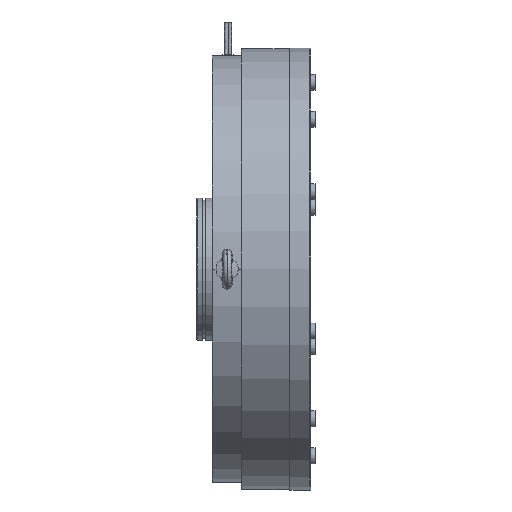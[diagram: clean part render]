
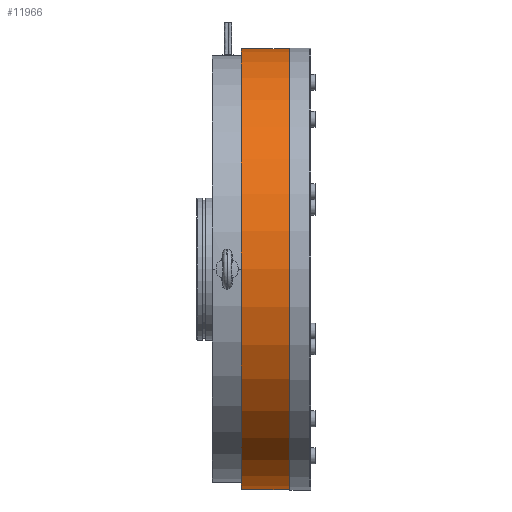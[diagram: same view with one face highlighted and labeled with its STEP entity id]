
A CAD part, front view. The second image highlights one B-rep face of the part: STEP entity #11966.
In plain terms, the highlighted cylindrical face has radius 248 mm (diameter 496 mm), a full revolution.
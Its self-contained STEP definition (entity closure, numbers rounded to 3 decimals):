
#617=LINE('',#20420,#1180);
#1180=VECTOR('',#16762,248.);
#1627=CYLINDRICAL_SURFACE('',#13438,248.);
#2355=FACE_OUTER_BOUND('',#3166,.T.);
#3166=EDGE_LOOP('',(#9843,#9844,#9845,#9846,#9847,#9848));
#4194=CIRCLE('',#13400,248.);
#4195=CIRCLE('',#13401,248.);
#4222=CIRCLE('',#13436,248.);
#4223=CIRCLE('',#13437,248.);
#5285=VERTEX_POINT('',#20347);
#5286=VERTEX_POINT('',#20348);
#5313=VERTEX_POINT('',#20415);
#5314=VERTEX_POINT('',#20416);
#6858=EDGE_CURVE('',#5285,#5286,#4194,.T.);
#6859=EDGE_CURVE('',#5286,#5285,#4195,.T.);
#6890=EDGE_CURVE('',#5313,#5314,#4222,.T.);
#6891=EDGE_CURVE('',#5314,#5313,#4223,.T.);
#6892=EDGE_CURVE('',#5286,#5314,#617,.T.);
#9843=ORIENTED_EDGE('',*,*,#6858,.F.);
#9844=ORIENTED_EDGE('',*,*,#6859,.F.);
#9845=ORIENTED_EDGE('',*,*,#6892,.T.);
#9846=ORIENTED_EDGE('',*,*,#6891,.T.);
#9847=ORIENTED_EDGE('',*,*,#6890,.T.);
#9848=ORIENTED_EDGE('',*,*,#6892,.F.);
#11966=ADVANCED_FACE('',(#2355),#1627,.T.);
#13400=AXIS2_PLACEMENT_3D('',#20349,#16680,#16681);
#13401=AXIS2_PLACEMENT_3D('',#20350,#16682,#16683);
#13436=AXIS2_PLACEMENT_3D('',#20417,#16756,#16757);
#13437=AXIS2_PLACEMENT_3D('',#20418,#16758,#16759);
#13438=AXIS2_PLACEMENT_3D('',#20419,#16760,#16761);
#16680=DIRECTION('center_axis',(1.,0.,0.));
#16681=DIRECTION('ref_axis',(0.,-1.,0.));
#16682=DIRECTION('center_axis',(1.,0.,0.));
#16683=DIRECTION('ref_axis',(0.,-1.,0.));
#16756=DIRECTION('center_axis',(1.,0.,0.));
#16757=DIRECTION('ref_axis',(0.,-1.,0.));
#16758=DIRECTION('center_axis',(1.,0.,0.));
#16759=DIRECTION('ref_axis',(0.,-1.,0.));
#16760=DIRECTION('center_axis',(1.,0.,0.));
#16761=DIRECTION('ref_axis',(0.,-1.,0.));
#16762=DIRECTION('',(-1.,0.,0.));
#20347=CARTESIAN_POINT('',(55.5,-248.,0.));
#20348=CARTESIAN_POINT('',(55.5,248.,0.));
#20349=CARTESIAN_POINT('Origin',(55.5,0.,
0.));
#20350=CARTESIAN_POINT('Origin',(55.5,0.,
0.));
#20415=CARTESIAN_POINT('',(1.5,-248.,0.));
#20416=CARTESIAN_POINT('',(1.5,248.,0.));
#20417=CARTESIAN_POINT('Origin',(1.5,0.,
0.));
#20418=CARTESIAN_POINT('Origin',(1.5,0.,
0.));
#20419=CARTESIAN_POINT('Origin',(28.5,0.,
0.));
#20420=CARTESIAN_POINT('',(28.5,248.,0.));
